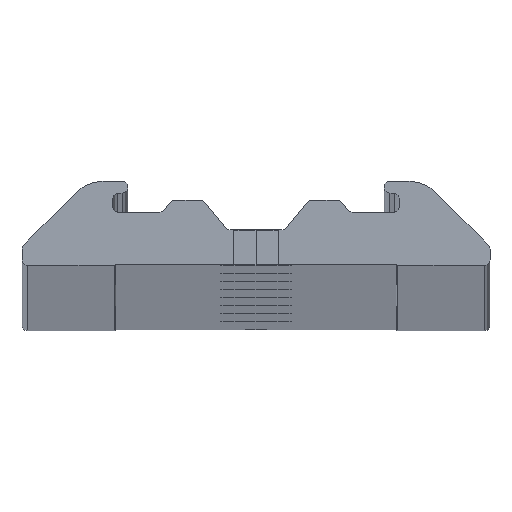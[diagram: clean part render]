
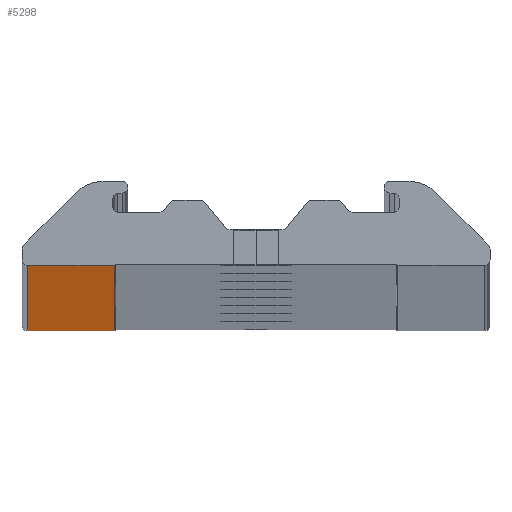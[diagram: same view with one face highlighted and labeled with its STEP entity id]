
A CAD part, top view. The second image highlights one B-rep face of the part: STEP entity #5298.
In plain terms, the highlighted planar face has unit normal (0, -1, 0).
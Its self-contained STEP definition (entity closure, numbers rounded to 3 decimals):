
#216 = ORIENTED_EDGE ( 'NONE', *, *, #4188, .F. ) ;
#298 = CARTESIAN_POINT ( 'NONE',  ( -12.2, 0., -2000. ) ) ;
#487 = EDGE_LOOP ( 'NONE', ( #5543, #1360, #216, #4257 ) ) ;
#613 = DIRECTION ( 'NONE',  ( 0., -1., 0. ) ) ;
#716 = EDGE_CURVE ( 'NONE', #868, #754, #4850, .T. ) ;
#754 = VERTEX_POINT ( 'NONE', #298 ) ;
#796 = VERTEX_POINT ( 'NONE', #806 ) ;
#806 = CARTESIAN_POINT ( 'NONE',  ( -12.2, 0., 0. ) ) ;
#860 = CARTESIAN_POINT ( 'NONE',  ( -12.5, 0., -2000. ) ) ;
#868 = VERTEX_POINT ( 'NONE', #1784 ) ;
#1360 = ORIENTED_EDGE ( 'NONE', *, *, #3956, .T. ) ;
#1405 = DIRECTION ( 'NONE',  ( 0., 0., -1. ) ) ;
#1482 = DIRECTION ( 'NONE',  ( 1., 0., 0. ) ) ;
#1582 = EDGE_CURVE ( 'NONE', #796, #754, #4177, .T. ) ;
#1596 = LINE ( 'NONE', #2856, #4364 ) ;
#1636 = AXIS2_PLACEMENT_3D ( 'NONE', #3872, #613, #1405 ) ;
#1784 = CARTESIAN_POINT ( 'NONE',  ( -7.571, 0., -2000. ) ) ;
#2353 = CARTESIAN_POINT ( 'NONE',  ( -12.5, 0., 0. ) ) ;
#2807 = VECTOR ( 'NONE', #2878, 1000. ) ;
#2856 = CARTESIAN_POINT ( 'NONE',  ( -7.571, 0., -2160. ) ) ;
#2878 = DIRECTION ( 'NONE',  ( 0., 0., -1. ) ) ;
#3102 = VECTOR ( 'NONE', #4757, 1000. ) ;
#3159 = FACE_OUTER_BOUND ( 'NONE', #487, .T. ) ;
#3514 = VERTEX_POINT ( 'NONE', #4592 ) ;
#3872 = CARTESIAN_POINT ( 'NONE',  ( -12.5, 0., -2160. ) ) ;
#3885 = VECTOR ( 'NONE', #1482, 1000. ) ;
#3956 = EDGE_CURVE ( 'NONE', #868, #3514, #1596, .T. ) ;
#4177 = LINE ( 'NONE', #5135, #2807 ) ;
#4188 = EDGE_CURVE ( 'NONE', #796, #3514, #4595, .T. ) ;
#4257 = ORIENTED_EDGE ( 'NONE', *, *, #1582, .T. ) ;
#4314 = PLANE ( 'NONE',  #1636 ) ;
#4364 = VECTOR ( 'NONE', #5616, 1000. ) ;
#4592 = CARTESIAN_POINT ( 'NONE',  ( -7.571, 0., 0. ) ) ;
#4595 = LINE ( 'NONE', #2353, #3885 ) ;
#4757 = DIRECTION ( 'NONE',  ( -1., 0., 0. ) ) ;
#4850 = LINE ( 'NONE', #860, #3102 ) ;
#5135 = CARTESIAN_POINT ( 'NONE',  ( -12.2, 0., -2160. ) ) ;
#5298 = ADVANCED_FACE ( 'NONE', ( #3159 ), #4314, .T. ) ;
#5543 = ORIENTED_EDGE ( 'NONE', *, *, #716, .F. ) ;
#5616 = DIRECTION ( 'NONE',  ( 0., 0., 1. ) ) ;
